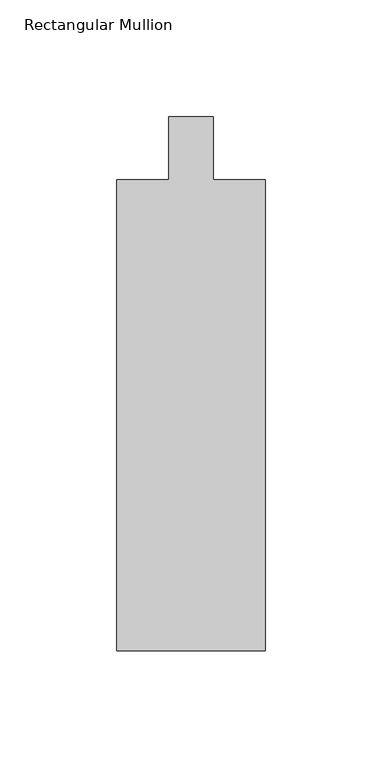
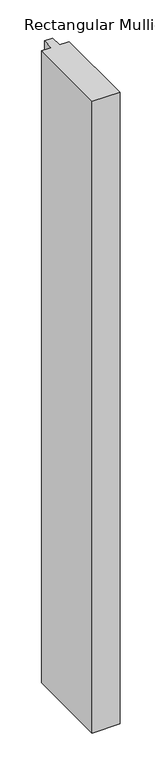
"""IFC4 building model written with IfcOpenShell, lengths in millimetres: member geometry."""

from ifc_helpers import new_model, si_unit, frame, origin, place, context, project, spatial, polyline, outline, extrude, source, transform, mapped, element, save


def rectangular_mullion_5041c5a1(model_context):
    return source(origin(), model_context, "Body", "SweptSolid", [
        extrude(outline(polyline([(-63.5, -228.6), (-63.5, -26.9875), (-41.275, -26.9875), (-41.275, 0.0), (-22.225, 0.0), (-22.225, -26.9875), (0.0, -26.9875), (0.0, -228.6), (-63.5, -228.6)])), frame((0.0, 0.0, -1531.62), z_axis=(0.0, 0.0, 1.0), x_axis=(1.0, 0.0, 0.0)), (0.0, 0.0, 1.0), 1531.62),
    ])


if __name__ == "__main__":
    model = new_model("IFC4")
    model_context = context("Model", 3, world=origin())
    ifc_project = project(units=[si_unit("LENGTHUNIT", "METRE", prefix="MILLI")], contexts=[model_context])
    site = spatial("IfcSite", under=ifc_project)
    building = spatial("IfcBuilding", under=site)
    placement = place(None, origin())
    rectangular_mullion_shape = rectangular_mullion_5041c5a1(model_context)
    element("IfcMember", 1, ObjectType="Rectangular Mullion : 2 1/2\" x 8\" - Capless", at=placement, inside=building, context=model_context, shape_type="MappedRepresentation", body=[
        mapped(rectangular_mullion_shape, transform((0.0, 0.0, 0.0), x_axis=(1.0, 0.0, 0.0), y_axis=(0.0, 1.0, 0.0), z_axis=(0.0, 0.0, 1.0))),
    ])
    save(model, "model.ifc")
